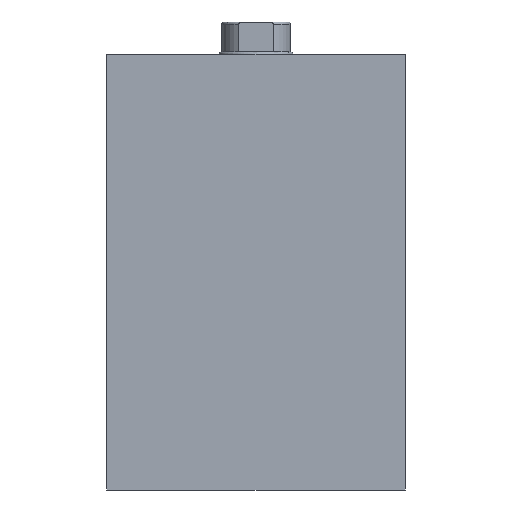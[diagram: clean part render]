
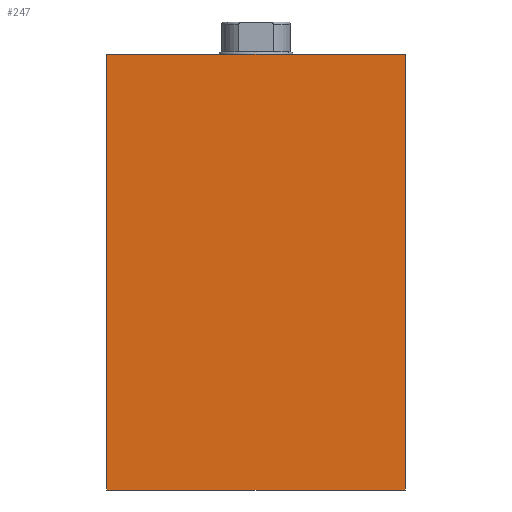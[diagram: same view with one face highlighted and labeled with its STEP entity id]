
A CAD part, left-side view. The second image highlights one B-rep face of the part: STEP entity #247.
In plain terms, the highlighted planar face has unit normal (-1, 0, 0) as drawn and (0, 0, -1) by its records, which use the part's own axes.
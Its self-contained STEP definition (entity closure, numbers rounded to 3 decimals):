
#247 = ADVANCED_FACE( '', ( #338 ), #339, .F. );
#338 = FACE_OUTER_BOUND( '', #554, .T. );
#339 = PLANE( '', #555 );
#554 = EDGE_LOOP( '', ( #789, #790, #791, #792 ) );
#555 = AXIS2_PLACEMENT_3D( '', #793, #794, #795 );
#789 = ORIENTED_EDGE( '', *, *, #1166, .T. );
#790 = ORIENTED_EDGE( '', *, *, #1183, .F. );
#791 = ORIENTED_EDGE( '', *, *, #1178, .F. );
#792 = ORIENTED_EDGE( '', *, *, #1182, .T. );
#793 = CARTESIAN_POINT( '', ( 95., -32.5, -22.5 ) );
#794 = DIRECTION( '', ( 0., 0., 1. ) );
#795 = DIRECTION( '', ( 1., 0., 0. ) );
#1166 = EDGE_CURVE( '', #1267, #1265, #1268, .T. );
#1178 = EDGE_CURVE( '', #1287, #1289, #1290, .T. );
#1182 = EDGE_CURVE( '', #1287, #1267, #1296, .T. );
#1183 = EDGE_CURVE( '', #1289, #1265, #1297, .T. );
#1265 = VERTEX_POINT( '', #1510 );
#1267 = VERTEX_POINT( '', #1513 );
#1268 = LINE( '', #1514, #1515 );
#1287 = VERTEX_POINT( '', #1706 );
#1289 = VERTEX_POINT( '', #1709 );
#1290 = LINE( '', #1710, #1711 );
#1296 = B_SPLINE_CURVE_WITH_KNOTS( '', 1, ( #1784, #1785 ), .UNSPECIFIED., .F., .F., ( 2, 2 ), ( 0., 1. ), .UNSPECIFIED. );
#1297 = B_SPLINE_CURVE_WITH_KNOTS( '', 1, ( #1786, #1787 ), .UNSPECIFIED., .F., .F., ( 2, 2 ), ( 0., 1. ), .UNSPECIFIED. );
#1510 = CARTESIAN_POINT( '', ( 0., 32.5, -22.5 ) );
#1513 = CARTESIAN_POINT( '', ( 0., -32.5, -22.5 ) );
#1514 = CARTESIAN_POINT( '', ( 0., -32.5, -22.5 ) );
#1515 = VECTOR( '', #3898, 1000. );
#1706 = CARTESIAN_POINT( '', ( 95., -32.5, -22.5 ) );
#1709 = CARTESIAN_POINT( '', ( 95., 32.5, -22.5 ) );
#1710 = CARTESIAN_POINT( '', ( 95., -32.5, -22.5 ) );
#1711 = VECTOR( '', #3905, 1000. );
#1784 = CARTESIAN_POINT( '', ( 95., -32.5, -22.5 ) );
#1785 = CARTESIAN_POINT( '', ( 0., -32.5, -22.5 ) );
#1786 = CARTESIAN_POINT( '', ( 95., 32.5, -22.5 ) );
#1787 = CARTESIAN_POINT( '', ( 0., 32.5, -22.5 ) );
#3898 = DIRECTION( '', ( 0., 1., 0. ) );
#3905 = DIRECTION( '', ( 0., 1., 0. ) );
